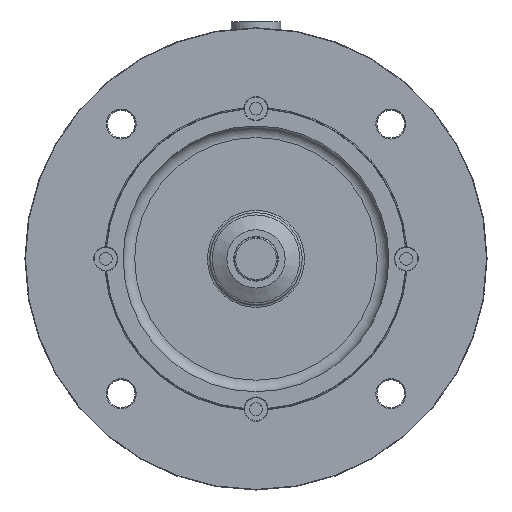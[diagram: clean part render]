
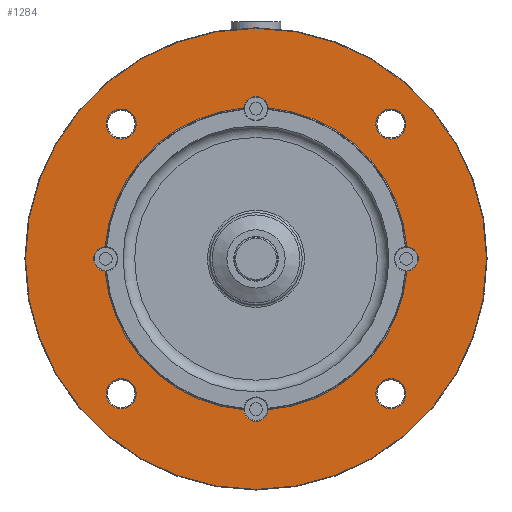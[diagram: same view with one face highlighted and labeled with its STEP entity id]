
A CAD part, front view. The second image highlights one B-rep face of the part: STEP entity #1284.
In plain terms, the highlighted planar face has unit normal (0, -1, 0).
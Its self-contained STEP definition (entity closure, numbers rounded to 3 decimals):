
#521=PLANE('',#7331);
#642=FACE_BOUND('',#2353,.T.);
#643=FACE_BOUND('',#2354,.T.);
#644=FACE_BOUND('',#2355,.T.);
#645=FACE_BOUND('',#2356,.T.);
#646=FACE_BOUND('',#2357,.T.);
#1284=ADVANCED_FACE('',(#2022,#642,#643,#644,#645,#646),#521,.T.);
#2022=FACE_OUTER_BOUND('',#2352,.T.);
#2352=EDGE_LOOP('',(#3642));
#2353=EDGE_LOOP('',(#3643));
#2354=EDGE_LOOP('',(#3644));
#2355=EDGE_LOOP('',(#3645));
#2356=EDGE_LOOP('',(#3646));
#2357=EDGE_LOOP('',(#3647,#3648,#3649,#3650,#3651,#3652,#3653,#3654));
#3642=ORIENTED_EDGE('',*,*,#5918,.T.);
#3643=ORIENTED_EDGE('',*,*,#5919,.T.);
#3644=ORIENTED_EDGE('',*,*,#5920,.T.);
#3645=ORIENTED_EDGE('',*,*,#5921,.T.);
#3646=ORIENTED_EDGE('',*,*,#5922,.T.);
#3647=ORIENTED_EDGE('',*,*,#5923,.T.);
#3648=ORIENTED_EDGE('',*,*,#5924,.T.);
#3649=ORIENTED_EDGE('',*,*,#5925,.T.);
#3650=ORIENTED_EDGE('',*,*,#5926,.T.);
#3651=ORIENTED_EDGE('',*,*,#5927,.T.);
#3652=ORIENTED_EDGE('',*,*,#5928,.T.);
#3653=ORIENTED_EDGE('',*,*,#5929,.T.);
#3654=ORIENTED_EDGE('',*,*,#5930,.T.);
#5238=VERTEX_POINT('',#10903);
#5239=VERTEX_POINT('',#10905);
#5240=VERTEX_POINT('',#10907);
#5241=VERTEX_POINT('',#10909);
#5242=VERTEX_POINT('',#10911);
#5243=VERTEX_POINT('',#10913);
#5244=VERTEX_POINT('',#10914);
#5245=VERTEX_POINT('',#10916);
#5246=VERTEX_POINT('',#10918);
#5247=VERTEX_POINT('',#10920);
#5248=VERTEX_POINT('',#10922);
#5249=VERTEX_POINT('',#10924);
#5250=VERTEX_POINT('',#10926);
#5918=EDGE_CURVE('',#5238,#5238,#6704,.T.);
#5919=EDGE_CURVE('',#5239,#5239,#6705,.T.);
#5920=EDGE_CURVE('',#5240,#5240,#6706,.T.);
#5921=EDGE_CURVE('',#5241,#5241,#6707,.T.);
#5922=EDGE_CURVE('',#5242,#5242,#6708,.T.);
#5923=EDGE_CURVE('',#5243,#5244,#6709,.T.);
#5924=EDGE_CURVE('',#5244,#5245,#6710,.T.);
#5925=EDGE_CURVE('',#5245,#5246,#6711,.T.);
#5926=EDGE_CURVE('',#5246,#5247,#6712,.T.);
#5927=EDGE_CURVE('',#5247,#5248,#6713,.T.);
#5928=EDGE_CURVE('',#5248,#5249,#6714,.T.);
#5929=EDGE_CURVE('',#5249,#5250,#6715,.T.);
#5930=EDGE_CURVE('',#5250,#5243,#6716,.T.);
#6704=CIRCLE('',#7318,99.75);
#6705=CIRCLE('',#7319,6.5);
#6706=CIRCLE('',#7320,6.5);
#6707=CIRCLE('',#7321,6.5);
#6708=CIRCLE('',#7322,6.5);
#6709=CIRCLE('',#7323,5.25);
#6710=CIRCLE('',#7324,65.5);
#6711=CIRCLE('',#7325,5.25);
#6712=CIRCLE('',#7326,65.5);
#6713=CIRCLE('',#7327,5.25);
#6714=CIRCLE('',#7328,65.5);
#6715=CIRCLE('',#7329,5.25);
#6716=CIRCLE('',#7330,65.5);
#7318=AXIS2_PLACEMENT_3D('',#10902,#8467,#8468);
#7319=AXIS2_PLACEMENT_3D('',#10904,#8469,#8470);
#7320=AXIS2_PLACEMENT_3D('',#10906,#8471,#8472);
#7321=AXIS2_PLACEMENT_3D('',#10908,#8473,#8474);
#7322=AXIS2_PLACEMENT_3D('',#10910,#8475,#8476);
#7323=AXIS2_PLACEMENT_3D('',#10912,#8477,#8478);
#7324=AXIS2_PLACEMENT_3D('',#10915,#8479,#8480);
#7325=AXIS2_PLACEMENT_3D('',#10917,#8481,#8482);
#7326=AXIS2_PLACEMENT_3D('',#10919,#8483,#8484);
#7327=AXIS2_PLACEMENT_3D('',#10921,#8485,#8486);
#7328=AXIS2_PLACEMENT_3D('',#10923,#8487,#8488);
#7329=AXIS2_PLACEMENT_3D('',#10925,#8489,#8490);
#7330=AXIS2_PLACEMENT_3D('',#10927,#8491,#8492);
#7331=AXIS2_PLACEMENT_3D('',#10928,#8493,#8494);
#8467=DIRECTION('',(0.,-1.,0.));
#8468=DIRECTION('',(0.,0.,-1.));
#8469=DIRECTION('',(0.,1.,0.));
#8470=DIRECTION('',(0.,0.,-1.));
#8471=DIRECTION('',(0.,1.,0.));
#8472=DIRECTION('',(0.,0.,-1.));
#8473=DIRECTION('',(0.,1.,0.));
#8474=DIRECTION('',(0.,0.,-1.));
#8475=DIRECTION('',(0.,1.,0.));
#8476=DIRECTION('',(0.,0.,-1.));
#8477=DIRECTION('',(0.,1.,0.));
#8478=DIRECTION('',(0.,0.,-1.));
#8479=DIRECTION('',(0.,1.,0.));
#8480=DIRECTION('',(0.,0.,-1.));
#8481=DIRECTION('',(0.,1.,0.));
#8482=DIRECTION('',(0.,0.,-1.));
#8483=DIRECTION('',(0.,1.,0.));
#8484=DIRECTION('',(0.,0.,-1.));
#8485=DIRECTION('',(0.,1.,0.));
#8486=DIRECTION('',(0.,0.,-1.));
#8487=DIRECTION('',(0.,1.,0.));
#8488=DIRECTION('',(0.,0.,-1.));
#8489=DIRECTION('',(0.,1.,0.));
#8490=DIRECTION('',(0.,0.,-1.));
#8491=DIRECTION('',(0.,1.,0.));
#8492=DIRECTION('',(0.,0.,-1.));
#8493=DIRECTION('',(0.,-1.,0.));
#8494=DIRECTION('',(0.,0.,-1.));
#10902=CARTESIAN_POINT('',(0.,0.,0.));
#10903=CARTESIAN_POINT('',(0.,0.,-99.75));
#10904=CARTESIAN_POINT('',(58.336,0.,58.336));
#10905=CARTESIAN_POINT('',(58.336,0.,51.836));
#10906=CARTESIAN_POINT('',(58.336,0.,-58.336));
#10907=CARTESIAN_POINT('',(58.336,0.,-64.836));
#10908=CARTESIAN_POINT('',(-58.336,0.,-58.336));
#10909=CARTESIAN_POINT('',(-58.336,0.,-64.836));
#10910=CARTESIAN_POINT('',(-58.336,0.,58.336));
#10911=CARTESIAN_POINT('',(-58.336,0.,51.836));
#10912=CARTESIAN_POINT('',(65.,0.,0.));
#10913=CARTESIAN_POINT('',(65.29,0.,5.242));
#10914=CARTESIAN_POINT('',(65.29,0.,-5.242));
#10915=CARTESIAN_POINT('',(0.,0.,0.));
#10916=CARTESIAN_POINT('',(5.242,0.,-65.29));
#10917=CARTESIAN_POINT('',(0.,0.,-65.));
#10918=CARTESIAN_POINT('',(-5.242,0.,-65.29));
#10919=CARTESIAN_POINT('',(0.,0.,0.));
#10920=CARTESIAN_POINT('',(-65.29,0.,-5.242));
#10921=CARTESIAN_POINT('',(-65.,0.,0.));
#10922=CARTESIAN_POINT('',(-65.29,0.,5.242));
#10923=CARTESIAN_POINT('',(0.,0.,0.));
#10924=CARTESIAN_POINT('',(-5.242,0.,65.29));
#10925=CARTESIAN_POINT('',(0.,0.,65.));
#10926=CARTESIAN_POINT('',(5.242,0.,65.29));
#10927=CARTESIAN_POINT('',(0.,0.,0.));
#10928=CARTESIAN_POINT('',(0.,0.,0.));
